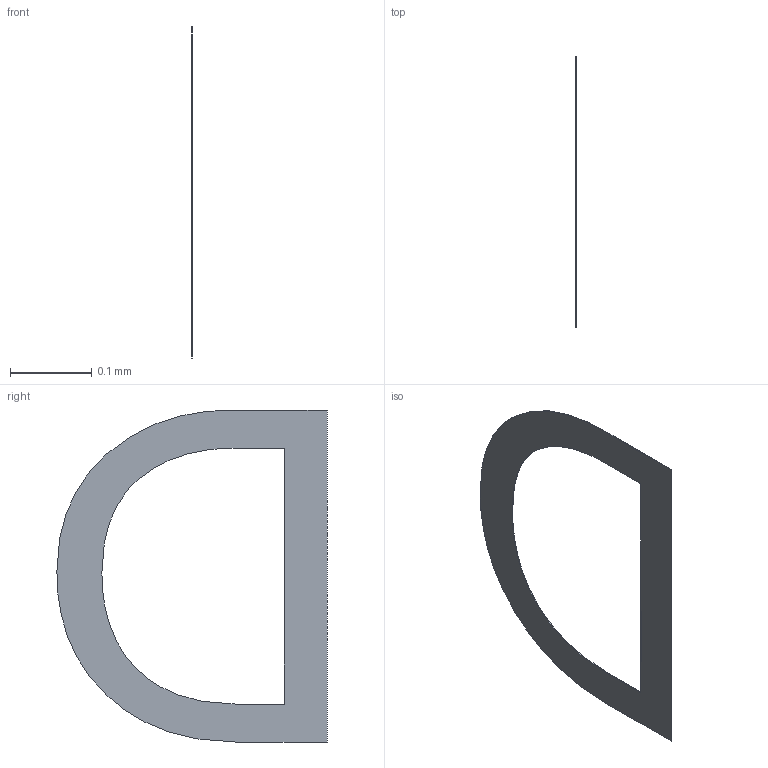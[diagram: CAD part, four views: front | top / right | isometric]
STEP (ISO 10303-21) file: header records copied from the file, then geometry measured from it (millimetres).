
FILE_DESCRIPTION(/* description */ ('STEP AP242 Edition 2','CAx-IF Rec.Pracs.---Representation and Presentation of Product Manufacturing Information (PMI)---4.0---2014-10-13','CAx-IF Rec.Pracs.---3D Tessellated Geometry---0.4---2014-09-14','2;1','CAx-IF Rec.Pracs.---User Defined Attributes---1.5---2016-08-15'),/* implementation_level */ '2;1');
FILE_NAME(/* name */ 'Assembly 1 - CONN-TH_HFBR-1521Z~CONN-TH_HFBR-1521Z~nxQB (11)',/* time_stamp */ '2026-04-02T09:55:12Z',/* author */ (''),/* organization */ (''),/* preprocessor_version */ 'ST-DEVELOPER v20',/* originating_system */ 'ONSHAPE BY PTC INC, 1.212',/* authorisation */ ' ');
FILE_SCHEMA (('AP242_MANAGED_MODEL_BASED_3D_ENGINEERING_MIM_LF { 1 0 10303 442 3 1 4 }'));
Length unit declared in the file: metre
Products named in the file (1): CONN-TH_HFBR-1521Z~CONN-TH_HFBR-1521Z~nxQB
Bounding box: 0 x 0.33 x 0.41 mm (x, y, z)
Volume: 0 mm3; surface area: 0.1 mm2
Topology: 1 solids, 1 shells, 16 faces, 42 edges, 28 vertices
Faces by surface type: bspline 8, plane 8
Entity records: 673 total; most frequent: CARTESIAN_POINT 191, ORIENTED_EDGE 84, DIRECTION 44, EDGE_CURVE 42, VERTEX_POINT 28, LINE 26, VECTOR 26, EDGE_LOOP 18
